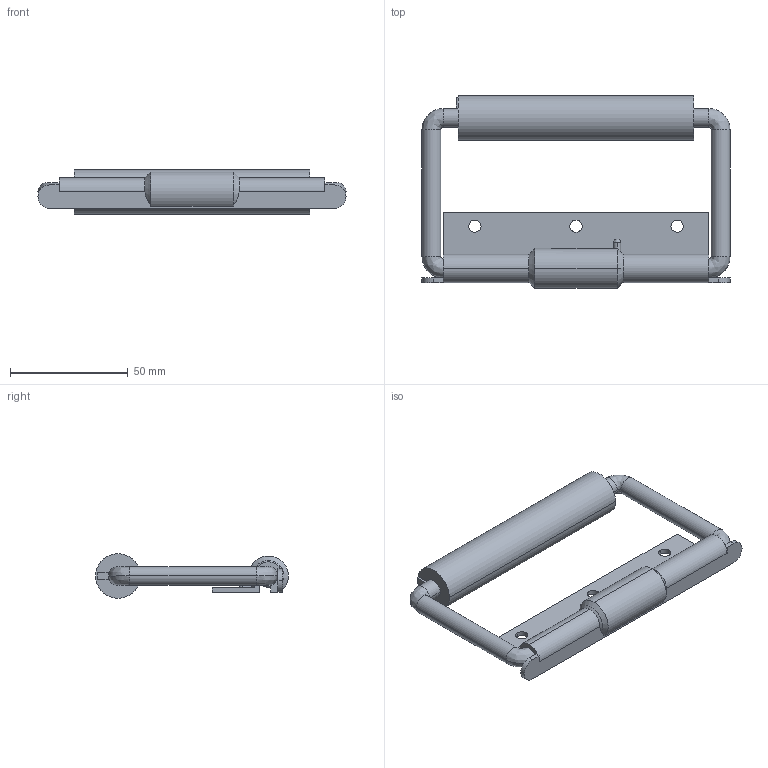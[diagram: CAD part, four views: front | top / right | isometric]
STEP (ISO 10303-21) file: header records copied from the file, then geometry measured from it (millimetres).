
FILE_DESCRIPTION (( 'STEP AP214' ), '1' );
FILE_NAME ('LS504-1.STEP', '2023-06-28T01:09:11', ( 'Windows 蚚誧' ), ( '' ), 'SwSTEP 2.0', 'SolidWorks 2019', '' );
FILE_SCHEMA (( 'AUTOMOTIVE_DESIGN' ));
Length unit declared in the file: millimetre
Products named in the file (1): LS504-1
Bounding box: 131 x 81.99 x 19 mm (x, y, z)
Volume: 54110.7 mm3; surface area: 29042.9 mm2
Topology: 3 solids, 3 shells, 85 faces, 215 edges, 136 vertices
Faces by surface type: plane 36, cylinder 33, bspline 13, cone 3
Entity records: 21916 total; most frequent: CARTESIAN_POINT 18906, ORIENTED_EDGE 428, DIRECTION 418, EDGE_CURVE 214, AXIS2_PLACEMENT_3D 150, VERTEX_POINT 136, LINE 118, VECTOR 118
